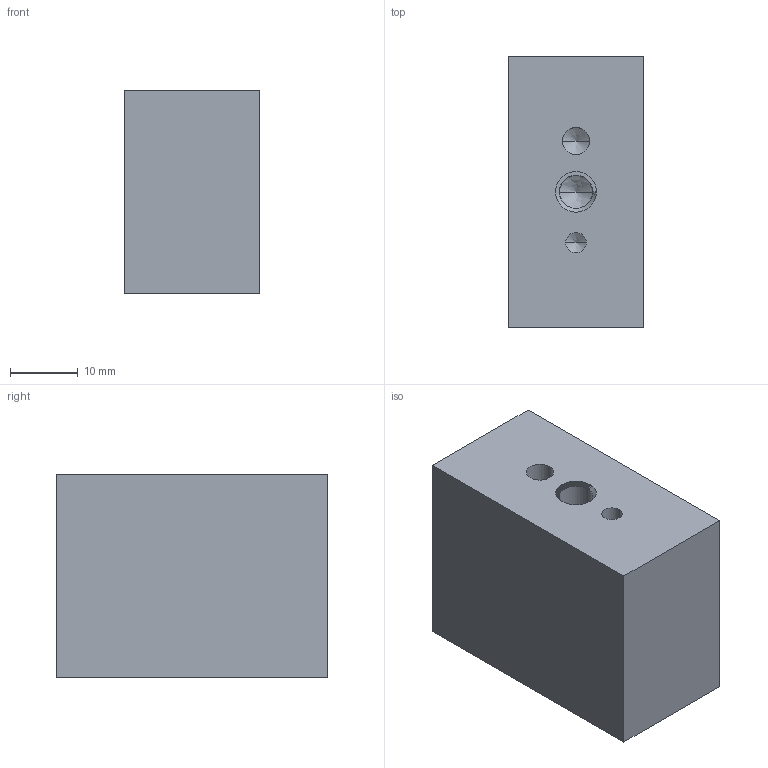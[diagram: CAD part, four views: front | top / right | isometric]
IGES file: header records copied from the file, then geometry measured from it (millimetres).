
Start section: 3D InterOp IGES (v. 2018 1.0.2), Spatial Corp. Copyright (c) 1999-2017.
Global section: file name: V91550-20-40-30.igs; native system: Spatial Corp.; preprocessor: 3D InterOp GENERIC/IGES 3.0; author: Noname; organization: Noname; date: 20191003.155011; units: metre
Bounding box: 20 x 40 x 30 mm (x, y, z)
Surface area: 5657.2 mm2 (no closed solid volume)
Topology: 0 solids, 0 shells, 23 faces, 98 edges, 92 vertices
Faces by surface type: revolution 16, extrusion 7
